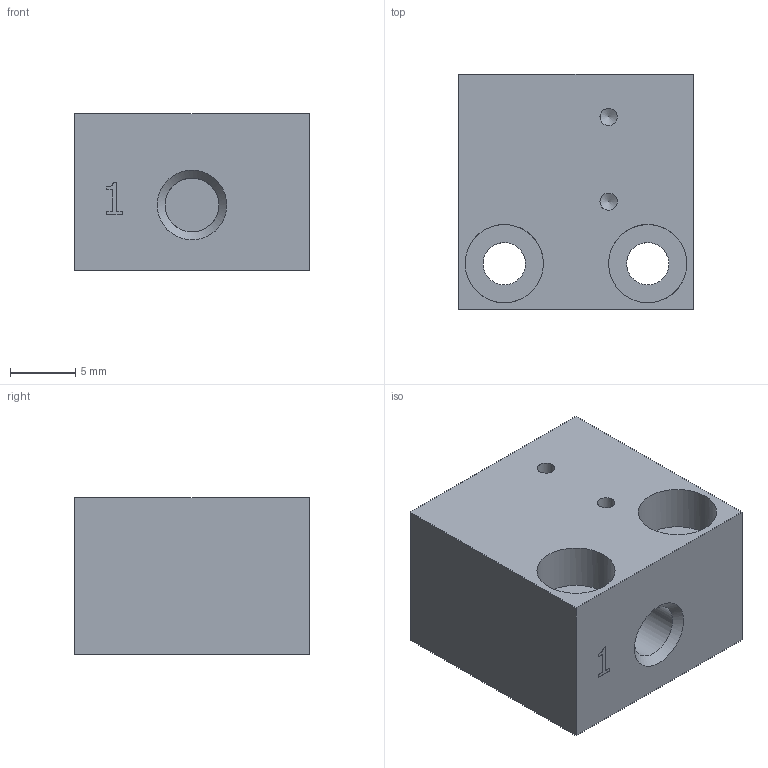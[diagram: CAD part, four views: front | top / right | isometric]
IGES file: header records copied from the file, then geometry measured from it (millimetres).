
Global section: file name: 395.01; native system: Autodesk Inventor 2014; preprocessor: unknown; date: 20160902.111525; units: millimetre
Bounding box: 18 x 18 x 12 mm (x, y, z)
Volume: 3305.7 mm3; surface area: 2021.7 mm2
Topology: 1 solids, 1 shells, 83 faces, 228 edges, 155 vertices
Faces by surface type: bspline 83
